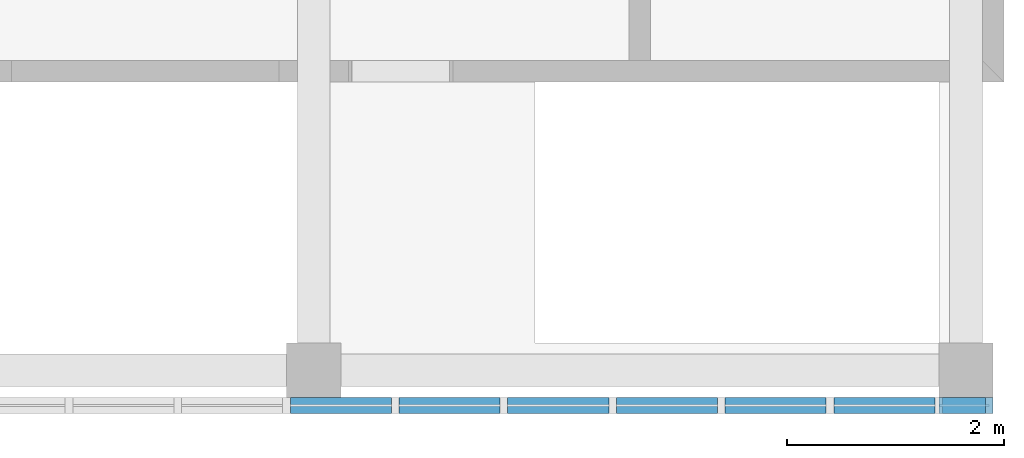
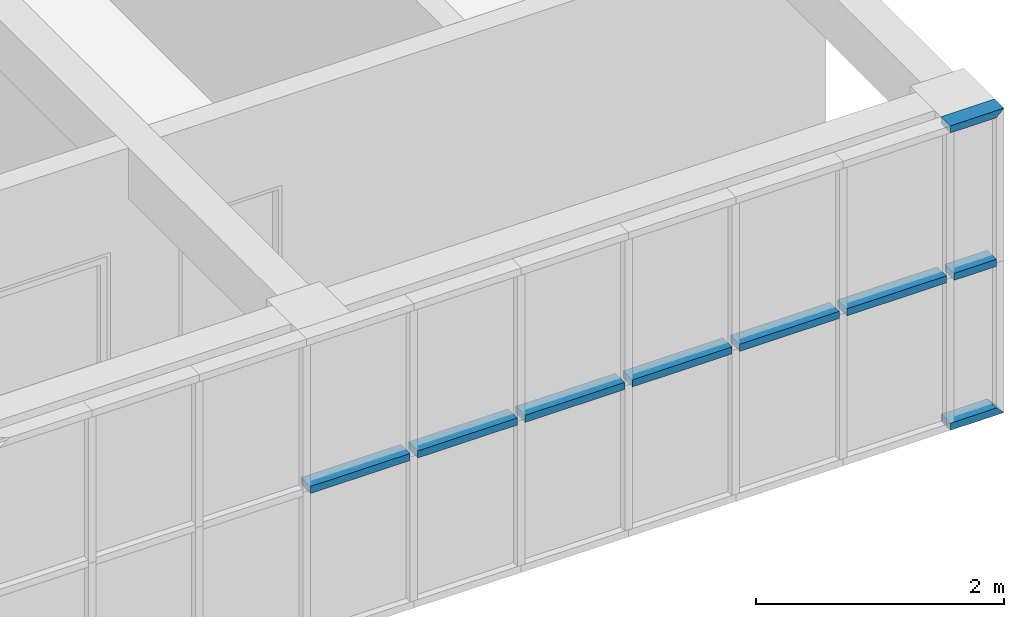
# One storey, part 4 of 4: 9 discrete accessories, 1 element without a shape of its own.
"""IFC2X3 building model written with IfcOpenShell, lengths in millimetres."""

from ifc_helpers import new_model, entity, si_unit, converted_unit, direction, frame, origin_with_axes, place, context, project, spatial, polyline, outline, extrude, source, transform, mapped, type_object, element, aggregate, save


model = new_model("IFC2X3")

# Units and contexts
model_context = context("Model", 3, precision=1e-05, world=origin_with_axes(), true_north=direction((6.123234e-17, 1.0)))
plan_context = context("Plan", 3, precision=1e-05, world=origin_with_axes(), true_north=direction((6.123234e-17, 1.0)))
ifc_project = project(units=[si_unit("LENGTHUNIT", "METRE", prefix="MILLI"), si_unit("AREAUNIT", "SQUARE_METRE"), si_unit("VOLUMEUNIT", "CUBIC_METRE"), converted_unit("PLANEANGLEUNIT", "DEGREE", entity("IfcPlaneAngleMeasure", 0.017453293), si_unit("PLANEANGLEUNIT", "RADIAN"), dimensions=[0, 0, 0, 0, 0, 0, 0]), si_unit("SOLIDANGLEUNIT", "STERADIAN"), si_unit("MASSUNIT", "GRAM"), si_unit("TIMEUNIT", "SECOND"), si_unit("THERMODYNAMICTEMPERATUREUNIT", "DEGREE_CELSIUS"), si_unit("LUMINOUSINTENSITYUNIT", "LUMEN")], contexts=[model_context, plan_context])

# Site, building, storey
site_placement = place(None, origin_with_axes())
site = spatial("IfcSite", under=ifc_project, at=site_placement, Name="\x8aO\x8d\\", CompositionType="ELEMENT")
building_placement = place(site_placement, origin_with_axes())
building = spatial("IfcBuilding", under=site, at=building_placement, Name="20101105_ArchCADMagic_002", CompositionType="ELEMENT")
storey_placement = place(building_placement, frame((0.0, 0.0, 3450.0), z_axis=(0.0, 0.0, 1.0), x_axis=(1.0, 0.0, 0.0)))
storey = spatial("IfcBuildingStorey", under=building, at=storey_placement, Name="1. 2\x8aK", CompositionType="ELEMENT", Elevation=3450.0)

# Curtain wall, discrete accessories
curtain_wall_placement = place(storey_placement, frame((-250.0, -325.0, 0.0), z_axis=(0.0, 0.0, 1.0), x_axis=(1.0, 0.0, 0.0)))
curtain_wall = element("IfcCurtainWall", 1, at=curtain_wall_placement, inside=storey, Name="CW5")
discrete_accessory_type = type_object("IfcDiscreteAccessoryType", Name="AC12_CW_Frame")
shared_shape_1 = source(origin_with_axes(), model_context, "Body", "SweptSolid", [
    extrude(outline(polyline([(0.0, 0.0), (150.0, 0.0), (150.0, -930.0), (5.5511151e-14, -930.0), (0.0, 0.0)])), origin_with_axes(), (0.0, 0.0, 1.0), 70.0),
])
discrete_accessory_1_placement = place(storey_placement, frame((17785.0, -250.0, 1535.0), z_axis=(0.0, 0.0, -1.0), x_axis=(0.0, -1.0, 0.0)))
discrete_accessory_1 = element("IfcDiscreteAccessory", 2, at=discrete_accessory_1_placement, type_object=discrete_accessory_type, Name="\x83g\x83\x89\x83\x93\x83U\x83\x80-457", context=model_context, shape_type="MappedRepresentation", body=[
    mapped(shared_shape_1, transform((0.0, 0.0, 0.0), scale=1.0)),
])
discrete_accessory_2_placement = place(storey_placement, frame((18785.0, -250.0, 1535.0), z_axis=(0.0, 0.0, -1.0), x_axis=(0.0, -1.0, 0.0)))
discrete_accessory_2 = element("IfcDiscreteAccessory", 3, at=discrete_accessory_2_placement, type_object=discrete_accessory_type, Name="\x83g\x83\x89\x83\x93\x83U\x83\x80-458", context=model_context, shape_type="MappedRepresentation", body=[
    mapped(shared_shape_1, transform((0.0, 0.0, 0.0), scale=1.0)),
])
discrete_accessory_3_placement = place(storey_placement, frame((19785.0, -250.0, 1535.0), z_axis=(0.0, 0.0, -1.0), x_axis=(0.0, -1.0, 0.0)))
discrete_accessory_3 = element("IfcDiscreteAccessory", 4, at=discrete_accessory_3_placement, type_object=discrete_accessory_type, Name="\x83g\x83\x89\x83\x93\x83U\x83\x80-459", context=model_context, shape_type="MappedRepresentation", body=[
    mapped(shared_shape_1, transform((0.0, 0.0, 0.0), scale=1.0)),
])
discrete_accessory_4_placement = place(storey_placement, frame((20785.0, -250.0, 1535.0), z_axis=(0.0, 0.0, -1.0), x_axis=(0.0, -1.0, 0.0)))
discrete_accessory_4 = element("IfcDiscreteAccessory", 5, at=discrete_accessory_4_placement, type_object=discrete_accessory_type, Name="\x83g\x83\x89\x83\x93\x83U\x83\x80-460", context=model_context, shape_type="MappedRepresentation", body=[
    mapped(shared_shape_1, transform((0.0, 0.0, 0.0), scale=1.0)),
])
discrete_accessory_5_placement = place(storey_placement, frame((21785.0, -250.0, 1535.0), z_axis=(0.0, 0.0, -1.0), x_axis=(0.0, -1.0, 0.0)))
discrete_accessory_5 = element("IfcDiscreteAccessory", 6, at=discrete_accessory_5_placement, type_object=discrete_accessory_type, Name="\x83g\x83\x89\x83\x93\x83U\x83\x80-461", context=model_context, shape_type="MappedRepresentation", body=[
    mapped(shared_shape_1, transform((0.0, 0.0, 0.0), scale=1.0)),
])
discrete_accessory_6_placement = place(storey_placement, frame((22785.0, -250.0, 1535.0), z_axis=(0.0, 0.0, -1.0), x_axis=(0.0, -1.0, 0.0)))
discrete_accessory_6 = element("IfcDiscreteAccessory", 7, at=discrete_accessory_6_placement, type_object=discrete_accessory_type, Name="\x83g\x83\x89\x83\x93\x83U\x83\x80-462", context=model_context, shape_type="MappedRepresentation", body=[
    mapped(shared_shape_1, transform((0.0, 0.0, 0.0), scale=1.0)),
])
shared_shape_2 = source(origin_with_axes(), model_context, "Body", "SweptSolid", [
    extrude(outline(polyline([(0.0, 0.0), (70.0, 0.0), (70.0, -430.0), (0.0, -500.0), (0.0, 0.0)])), origin_with_axes(), (0.0, 0.0, 1.0), 150.0),
])
discrete_accessory_7_placement = place(storey_placement, frame((23750.0, -400.0, 3000.0), z_axis=(0.0, 1.0, 0.0), x_axis=(0.0, 0.0, -1.0)))
discrete_accessory_7 = element("IfcDiscreteAccessory", 8, at=discrete_accessory_7_placement, type_object=discrete_accessory_type, Name="\x8b«\x8aE-819", context=model_context, shape_type="MappedRepresentation", body=[
    mapped(shared_shape_2, transform((0.0, 0.0, 0.0), scale=1.0)),
])
shared_shape_3 = source(origin_with_axes(), model_context, "Body", "SweptSolid", [
    extrude(outline(polyline([(0.0, 0.0), (150.0, 0.0), (150.0, -395.0), (5.5511151e-14, -395.0), (0.0, 0.0)])), origin_with_axes(), (0.0, 0.0, 1.0), 70.0),
])
discrete_accessory_8_placement = place(storey_placement, frame((23785.0, -250.0, 1535.0), z_axis=(0.0, 0.0, -1.0), x_axis=(0.0, -1.0, 0.0)))
discrete_accessory_8 = element("IfcDiscreteAccessory", 9, at=discrete_accessory_8_placement, type_object=discrete_accessory_type, Name="\x83g\x83\x89\x83\x93\x83U\x83\x80-542", context=model_context, shape_type="MappedRepresentation", body=[
    mapped(shared_shape_3, transform((0.0, 0.0, 0.0), scale=1.0)),
])
shared_shape_4 = source(origin_with_axes(), model_context, "Body", "SweptSolid", [
    extrude(outline(polyline([(0.0, 0.0), (70.0, 0.0), (70.0, -500.0), (0.0, -430.0), (0.0, 0.0)])), origin_with_axes(), (0.0, 0.0, 1.0), 150.0),
])
discrete_accessory_9_placement = place(storey_placement, frame((23750.0, -400.0, 70.0), z_axis=(0.0, 1.0, 0.0), x_axis=(0.0, 0.0, -1.0)))
discrete_accessory_9 = element("IfcDiscreteAccessory", 10, at=discrete_accessory_9_placement, type_object=discrete_accessory_type, Name="\x8b«\x8aE-818", context=model_context, shape_type="MappedRepresentation", body=[
    mapped(shared_shape_4, transform((0.0, 0.0, 0.0), scale=1.0)),
])
aggregate(curtain_wall, [discrete_accessory_1, discrete_accessory_2, discrete_accessory_3, discrete_accessory_4, discrete_accessory_5, discrete_accessory_6, discrete_accessory_7, discrete_accessory_8, discrete_accessory_9])

save(model, "model.ifc")
